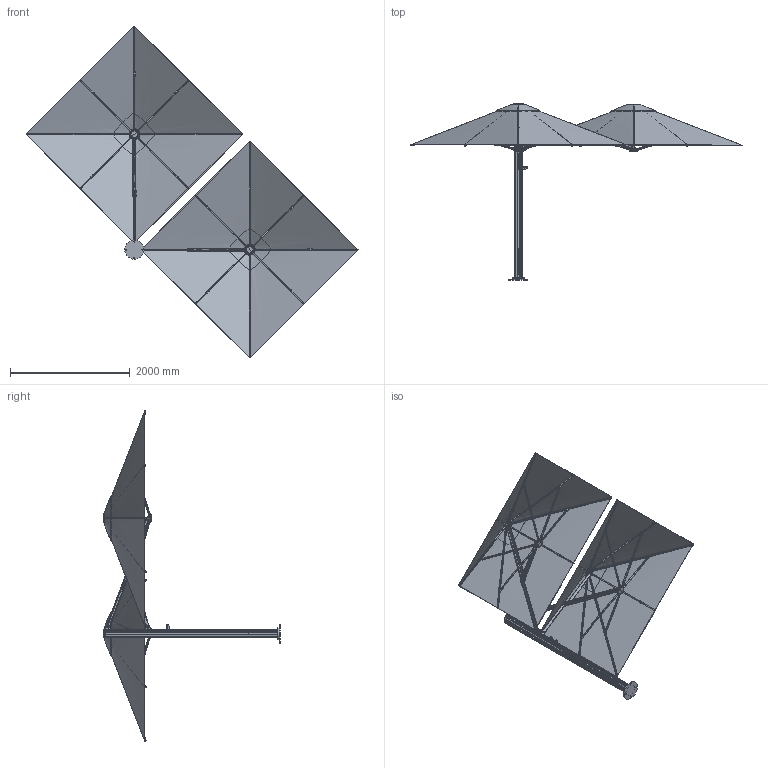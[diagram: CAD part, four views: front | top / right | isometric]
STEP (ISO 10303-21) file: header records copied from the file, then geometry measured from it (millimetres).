
FILE_DESCRIPTION (( 'STEP AP203' ), '1' );
FILE_NAME ('Unity 2.5M CNR SQ Duo.STEP', '2020-06-18T21:57:28', ( '' ), ( '' ), 'SwSTEP 2.0', 'SolidWorks 2017', '' );
FILE_SCHEMA (( 'CONFIG_CONTROL_DESIGN' ));
Length unit declared in the file: millimetre
Products named in the file (49): SMP_UM - 110182; SMP_UM - 110126 (2); SMP_UM - 010024_Canopy Only-OPEN; SMP_UM - 110096_PD; SMP_UM - 110083; SMP_UM - 110059; SMP_UM - 110063; SMP_UM - 110089; SMP_UM - 110079; SMP_UM - 110084; SMP_UM - 110112_ALL HOLES; SMP_UM - 110131; SMP_UM - 110110; SMP_UM - 110066; SMP_UM - 210036; SMP_UM - 110185; SMP_UM - 110060; SMP_UM - 110080; SMP_UM - 110092; SMP_UM - 110168; SMP_UM - 110184; Unity 2.5M CNR SQ Duo; SMP_UM - 110065; SMP_UM - 110313_Default<As Machined>; SMP_UM - 110116; SMP_UM - 110088; SMP_UM - 110064; socket button head cap screw_am_B18.3.4M - 5 x 0.8 x 16 SBHCS --N; SMP_UM - 210043 - Gastec Spring_Extended; SMP_UM - 110098; SMP_UM - 110167; SMP_UM - 110123; SMP_UM - 110083b; SMP_UM - 110069; SMP_UM - 110206; SMP_UM - 110222; SMP_UM - 110070; SMP_UM - 110075; SMP_UM - 110102_Stretched; SMP_UM - 110085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
Assembly tree (70 placements, depth 4):
  Unity 2.5M CNR SQ Duo
    SMP_UM - 110116
      SMP_UM - 110112_ALL HOLES
    SMP_UM - 110123
      SMP_UM - 110313_Default<As Machined>
    SMP_UM - 110222
    SMP_UM - 110126 (2)
    SMP_UM - 010024_Canopy Only-OPEN  x2
      SMP_UM - 110059
        SMP_UM - 110081
        SMP_UM - 110080  x2
      SMP_UM - 110060
        SMP_UM - 110083
        SMP_UM - 110084
        SMP_UM - 210023
        socket button head cap screw_am_B18.3.4M - 5 x 0.8 x 16 SBHCS --N
        SMP_UM - 210036
        SMP_UM - 110085  x2
        SMP_UM - 110083b
      SMP_UM - 110064
        SMP_UM - 110092
      SMP_UM - 110063
        SMP_UM - 110092
        SMP_UM - 110093
        SMP_UM - 110094
        SMP_UM - 110110
      SMP_UM - 110166
        SMP_UM - 110182
        SMP_UM - 110089
        SMP_UM - 110088
        SMP_UM - 110131
      SMP_UM - 110206
        SMP_UM - 110183
        SMP_UM - 110089  x2
      SMP_UM - 110066
        SMP_UM - 110098
        SMP_UM - 110075
        SMP_UM - 110096_PD
        SMP_UM - 110102_Stretched
      SMP_UM - 210043 - Gastec Spring_Extended
      SMP_UM - 110207
        SMP_UM - 110184
        SMP_UM - 110088
        SMP_UM - 110131
      SMP_UM - 110167
        SMP_UM - 110185
        SMP_UM - 110089  x2
      SMP_UM - 110168
        SMP_UM - 110075
        SMP_UM - 110079
      SMP_UM - 010264 - 2.5M Fabric Canopy
    SMP_UM - 110117
    SMP_UM - 110065  x2
      SMP_UM - 110070
      SMP_UM - 110069
Bounding box: 5550.66 x 2943.5 x 5550.66 mm (x, y, z)
Volume: 91960028.6 mm3; surface area: 39380065 mm2
Topology: 151 solids, 155 shells, 3192 faces, 7846 edges, 4948 vertices
Faces by surface type: cylinder 1082, plane 890, bspline 582, cone 488, torus 138, sphere 12
Entity records: 62592 total; most frequent: CARTESIAN_POINT 32894, ORIENTED_EDGE 5296, DIRECTION 4666, EDGE_CURVE 2648, AXIS2_PLACEMENT_3D 1861, VERTEX_POINT 1636, EDGE_LOOP 1130, FACE_OUTER_BOUND 1091
